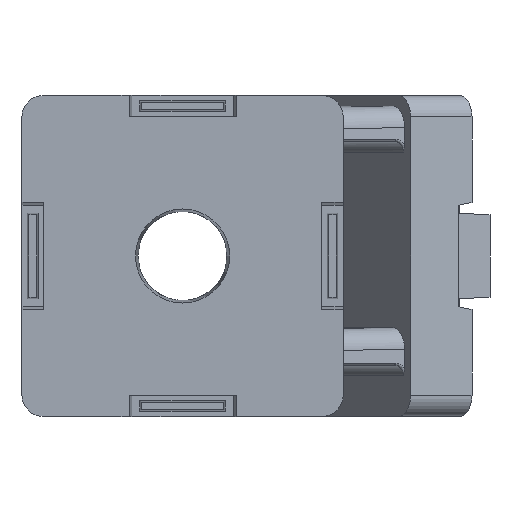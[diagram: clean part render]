
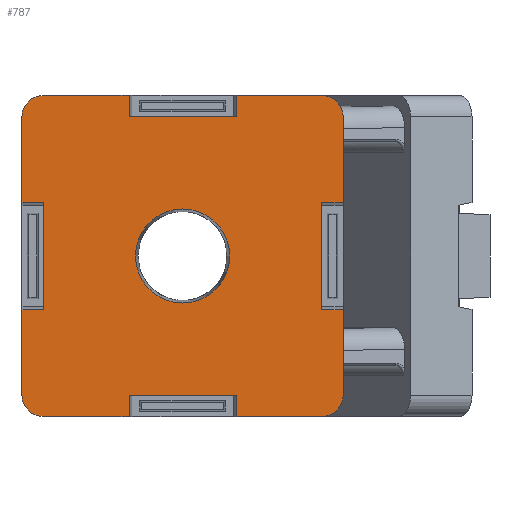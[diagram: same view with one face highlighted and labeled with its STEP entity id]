
A CAD part, front view. The second image highlights one B-rep face of the part: STEP entity #787.
In plain terms, the highlighted planar face has unit normal (0, -1, 0).
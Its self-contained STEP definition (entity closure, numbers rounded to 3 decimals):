
#787=ADVANCED_FACE('NONE',(#1642,#1643),#1644,.T.);
#1642=FACE_OUTER_BOUND('',#2995,.T.);
#1643=FACE_BOUND('',#2996,.T.);
#1644=PLANE('',#2997);
#2995=EDGE_LOOP('',(#5138,#5139,#5140,#5141,#5142,#5143,#5144,#5145,#5146,#5147,#5148,#5149,#5150,#5151,#5152,#5153,#5154,#5155,#5156,#5157,#5158,#5159,#5160,#5161));
#2996=EDGE_LOOP('',(#5162,#5163));
#2997=AXIS2_PLACEMENT_3D('',#5164,#5165,#5166);
#5138=ORIENTED_EDGE('',*,*,#6062,.F.);
#5139=ORIENTED_EDGE('',*,*,#6404,.F.);
#5140=ORIENTED_EDGE('',*,*,#6050,.F.);
#5141=ORIENTED_EDGE('',*,*,#6773,.F.);
#5142=ORIENTED_EDGE('',*,*,#6774,.T.);
#5143=ORIENTED_EDGE('',*,*,#6775,.F.);
#5144=ORIENTED_EDGE('',*,*,#6684,.F.);
#5145=ORIENTED_EDGE('',*,*,#6776,.F.);
#5146=ORIENTED_EDGE('',*,*,#6500,.F.);
#5147=ORIENTED_EDGE('',*,*,#6777,.F.);
#5148=ORIENTED_EDGE('',*,*,#6276,.T.);
#5149=ORIENTED_EDGE('',*,*,#6310,.F.);
#5150=ORIENTED_EDGE('',*,*,#6778,.F.);
#5151=ORIENTED_EDGE('',*,*,#6316,.F.);
#5152=ORIENTED_EDGE('',*,*,#6779,.F.);
#5153=ORIENTED_EDGE('',*,*,#6312,.F.);
#5154=ORIENTED_EDGE('',*,*,#6485,.T.);
#5155=ORIENTED_EDGE('',*,*,#6780,.F.);
#5156=ORIENTED_EDGE('',*,*,#6781,.F.);
#5157=ORIENTED_EDGE('',*,*,#5974,.F.);
#5158=ORIENTED_EDGE('',*,*,#6300,.F.);
#5159=ORIENTED_EDGE('',*,*,#6782,.F.);
#5160=ORIENTED_EDGE('',*,*,#6767,.T.);
#5161=ORIENTED_EDGE('',*,*,#6783,.F.);
#5162=ORIENTED_EDGE('',*,*,#6784,.T.);
#5163=ORIENTED_EDGE('',*,*,#6636,.T.);
#5164=CARTESIAN_POINT('',(-15.0,-22.5,-15.0));
#5165=DIRECTION('',(0.,-1.0,0.));
#5166=DIRECTION('',(0.,0.,1.0));
#5974=EDGE_CURVE('NONE',#6966,#6967,#6968,.T.);
#6050=EDGE_CURVE('NONE',#7102,#7103,#7104,.T.);
#6062=EDGE_CURVE('NONE',#7124,#7125,#7126,.T.);
#6276=EDGE_CURVE('NONE',#7483,#7481,#7484,.T.);
#6300=EDGE_CURVE('NONE',#7514,#6966,#7515,.T.);
#6310=EDGE_CURVE('NONE',#7529,#7481,#7531,.T.);
#6312=EDGE_CURVE('NONE',#7532,#7534,#7535,.T.);
#6316=EDGE_CURVE('NONE',#7539,#7540,#7541,.T.);
#6404=EDGE_CURVE('NONE',#7103,#7124,#7680,.T.);
#6485=EDGE_CURVE('NONE',#7532,#7798,#7800,.T.);
#6500=EDGE_CURVE('NONE',#7820,#7821,#7822,.T.);
#6636=EDGE_CURVE('NONE',#8000,#8002,#8004,.T.);
#6684=EDGE_CURVE('NONE',#8062,#8063,#8064,.T.);
#6767=EDGE_CURVE('NONE',#8164,#8162,#8165,.T.);
#6773=EDGE_CURVE('NONE',#8171,#7102,#8172,.T.);
#6774=EDGE_CURVE('NONE',#8171,#8173,#8174,.T.);
#6775=EDGE_CURVE('NONE',#8063,#8173,#8175,.T.);
#6776=EDGE_CURVE('NONE',#7821,#8062,#8176,.T.);
#6777=EDGE_CURVE('NONE',#7483,#7820,#8177,.T.);
#6778=EDGE_CURVE('NONE',#7540,#7529,#8178,.T.);
#6779=EDGE_CURVE('NONE',#7534,#7539,#8179,.T.);
#6780=EDGE_CURVE('NONE',#8180,#7798,#8181,.T.);
#6781=EDGE_CURVE('NONE',#6967,#8180,#8182,.T.);
#6782=EDGE_CURVE('NONE',#8164,#7514,#8183,.T.);
#6783=EDGE_CURVE('NONE',#7125,#8162,#8184,.T.);
#6784=EDGE_CURVE('NONE',#8002,#8000,#8185,.T.);
#6966=VERTEX_POINT('NONE',#8386);
#6967=VERTEX_POINT('NONE',#8387);
#6968=LINE('',#8388,#8389);
#7102=VERTEX_POINT('NONE',#8577);
#7103=VERTEX_POINT('NONE',#8578);
#7104=LINE('',#8579,#8580);
#7124=VERTEX_POINT('NONE',#8609);
#7125=VERTEX_POINT('NONE',#8610);
#7126=LINE('',#8611,#8612);
#7481=VERTEX_POINT('NONE',#9265);
#7483=VERTEX_POINT('NONE',#9268);
#7484=CIRCLE('',#9269,2.0);
#7514=VERTEX_POINT('NONE',#9320);
#7515=LINE('',#9321,#9322);
#7529=VERTEX_POINT('NONE',#9342);
#7531=LINE('',#9345,#9346);
#7532=VERTEX_POINT('NONE',#9347);
#7534=VERTEX_POINT('NONE',#9350);
#7535=LINE('',#9351,#9352);
#7539=VERTEX_POINT('NONE',#9357);
#7540=VERTEX_POINT('NONE',#9358);
#7541=LINE('',#9359,#9360);
#7680=LINE('',#9587,#9588);
#7798=VERTEX_POINT('NONE',#9810);
#7800=CIRCLE('',#9813,2.0);
#7820=VERTEX_POINT('NONE',#9840);
#7821=VERTEX_POINT('NONE',#9841);
#7822=LINE('',#9842,#9843);
#8000=VERTEX_POINT('NONE',#10122);
#8002=VERTEX_POINT('NONE',#10125);
#8004=CIRCLE('',#10128,4.394);
#8062=VERTEX_POINT('NONE',#10227);
#8063=VERTEX_POINT('NONE',#10228);
#8064=LINE('',#10229,#10230);
#8162=VERTEX_POINT('NONE',#10379);
#8164=VERTEX_POINT('NONE',#10382);
#8165=CIRCLE('',#10383,2.0);
#8171=VERTEX_POINT('NONE',#10392);
#8172=LINE('',#10393,#10394);
#8173=VERTEX_POINT('NONE',#10395);
#8174=CIRCLE('',#10396,2.0);
#8175=LINE('',#10397,#10398);
#8176=LINE('',#10399,#10400);
#8177=LINE('',#10401,#10402);
#8178=LINE('',#10403,#10404);
#8179=LINE('',#10405,#10406);
#8180=VERTEX_POINT('NONE',#10407);
#8181=LINE('',#10408,#10409);
#8182=LINE('',#10410,#10411);
#8183=LINE('',#10412,#10413);
#8184=LINE('',#10414,#10415);
#8185=CIRCLE('',#10416,4.394);
#8386=CARTESIAN_POINT('',(-13.0,-22.5,-5.0));
#8387=CARTESIAN_POINT('',(-13.0,-22.5,5.0));
#8388=CARTESIAN_POINT('',(-13.0,-22.5,5.0));
#8389=VECTOR('',#10721,1000.0);
#8577=CARTESIAN_POINT('',(5.0,-22.5,-15.0));
#8578=CARTESIAN_POINT('',(5.0,-22.5,-13.0));
#8579=CARTESIAN_POINT('',(5.0,-22.5,-15.0));
#8580=VECTOR('',#10814,1000.0);
#8609=CARTESIAN_POINT('',(-5.0,-22.5,-13.0));
#8610=CARTESIAN_POINT('',(-5.0,-22.5,-15.0));
#8611=CARTESIAN_POINT('',(-5.0,-22.5,-15.0));
#8612=VECTOR('',#10824,1000.0);
#9265=CARTESIAN_POINT('',(13.0,-22.5,15.0));
#9268=CARTESIAN_POINT('',(15.0,-22.5,13.0));
#9269=AXIS2_PLACEMENT_3D('',#11094,#11095,#11096);
#9320=CARTESIAN_POINT('',(-15.0,-22.5,-5.0));
#9321=CARTESIAN_POINT('',(-15.0,-22.5,-5.0));
#9322=VECTOR('',#11124,1000.0);
#9342=CARTESIAN_POINT('',(5.0,-22.5,15.0));
#9345=CARTESIAN_POINT('',(-15.0,-22.5,15.0));
#9346=VECTOR('',#11132,1000.0);
#9347=CARTESIAN_POINT('',(-13.0,-22.5,15.0));
#9350=CARTESIAN_POINT('',(-5.0,-22.5,15.0));
#9351=CARTESIAN_POINT('',(-15.0,-22.5,15.0));
#9352=VECTOR('',#11134,1000.0);
#9357=CARTESIAN_POINT('',(-5.0,-22.5,13.0));
#9358=CARTESIAN_POINT('',(5.0,-22.5,13.0));
#9359=CARTESIAN_POINT('',(5.0,-22.5,13.0));
#9360=VECTOR('',#11136,1000.0);
#9587=CARTESIAN_POINT('',(5.0,-22.5,-13.0));
#9588=VECTOR('',#11250,1000.0);
#9810=CARTESIAN_POINT('',(-15.0,-22.5,13.0));
#9813=AXIS2_PLACEMENT_3D('',#11337,#11338,#11339);
#9840=CARTESIAN_POINT('',(15.0,-22.5,5.0));
#9841=CARTESIAN_POINT('',(13.0,-22.5,5.0));
#9842=CARTESIAN_POINT('',(15.0,-22.5,5.0));
#9843=VECTOR('',#11356,1000.0);
#10122=CARTESIAN_POINT('',(4.394,-22.5,0.));
#10125=CARTESIAN_POINT('',(-4.394,-22.5,0.));
#10128=AXIS2_PLACEMENT_3D('',#11521,#11522,#11523);
#10227=CARTESIAN_POINT('',(13.0,-22.5,-5.0));
#10228=CARTESIAN_POINT('',(15.0,-22.5,-5.0));
#10229=CARTESIAN_POINT('',(15.0,-22.5,-5.0));
#10230=VECTOR('',#11578,1000.0);
#10379=CARTESIAN_POINT('',(-13.0,-22.5,-15.0));
#10382=CARTESIAN_POINT('',(-15.0,-22.5,-13.0));
#10383=AXIS2_PLACEMENT_3D('',#11662,#11663,#11664);
#10392=CARTESIAN_POINT('',(13.0,-22.5,-15.0));
#10393=CARTESIAN_POINT('',(-15.0,-22.5,-15.0));
#10394=VECTOR('',#11668,1000.0);
#10395=CARTESIAN_POINT('',(15.0,-22.5,-13.0));
#10396=AXIS2_PLACEMENT_3D('',#11669,#11670,#11671);
#10397=CARTESIAN_POINT('',(15.0,-22.5,15.0));
#10398=VECTOR('',#11672,1000.0);
#10399=CARTESIAN_POINT('',(13.0,-22.5,5.0));
#10400=VECTOR('',#11673,1000.0);
#10401=CARTESIAN_POINT('',(15.0,-22.5,15.0));
#10402=VECTOR('',#11674,1000.0);
#10403=CARTESIAN_POINT('',(5.0,-22.5,15.0));
#10404=VECTOR('',#11675,1000.0);
#10405=CARTESIAN_POINT('',(-5.0,-22.5,15.0));
#10406=VECTOR('',#11676,1000.0);
#10407=CARTESIAN_POINT('',(-15.0,-22.5,5.0));
#10408=CARTESIAN_POINT('',(-15.0,-22.5,15.0));
#10409=VECTOR('',#11677,1000.0);
#10410=CARTESIAN_POINT('',(-15.0,-22.5,5.0));
#10411=VECTOR('',#11678,1000.0);
#10412=CARTESIAN_POINT('',(-15.0,-22.5,15.0));
#10413=VECTOR('',#11679,1000.0);
#10414=CARTESIAN_POINT('',(-15.0,-22.5,-15.0));
#10415=VECTOR('',#11680,1000.0);
#10416=AXIS2_PLACEMENT_3D('',#11681,#11682,#11683);
#10721=DIRECTION('',(0.,0.,1.0));
#10814=DIRECTION('',(0.,0.,1.0));
#10824=DIRECTION('',(0.,0.,-1.0));
#11094=CARTESIAN_POINT('',(13.0,-22.5,13.0));
#11095=DIRECTION('',(0.,-1.0,0.));
#11096=DIRECTION('',(-1.0,0.,0.));
#11124=DIRECTION('',(1.0,0.,0.));
#11132=DIRECTION('',(1.0,0.,0.));
#11134=DIRECTION('',(1.0,0.,0.));
#11136=DIRECTION('',(1.0,0.,0.));
#11250=DIRECTION('',(-1.0,0.,0.));
#11337=CARTESIAN_POINT('',(-13.0,-22.5,13.0));
#11338=DIRECTION('',(0.,-1.0,0.));
#11339=DIRECTION('',(-1.0,0.,0.));
#11356=DIRECTION('',(-1.0,0.,0.));
#11521=CARTESIAN_POINT('',(0.0,-22.5,0.));
#11522=DIRECTION('',(0.,1.0,0.));
#11523=DIRECTION('',(-1.0,0.,0.));
#11578=DIRECTION('',(1.0,0.,0.));
#11662=CARTESIAN_POINT('',(-13.0,-22.5,-13.0));
#11663=DIRECTION('',(0.,-1.0,0.));
#11664=DIRECTION('',(-1.0,0.,0.));
#11668=DIRECTION('',(-1.0,0.,0.));
#11669=CARTESIAN_POINT('',(13.0,-22.5,-13.0));
#11670=DIRECTION('',(0.,-1.0,0.));
#11671=DIRECTION('',(-1.0,0.,0.));
#11672=DIRECTION('',(0.,0.,-1.0));
#11673=DIRECTION('',(0.,0.,-1.0));
#11674=DIRECTION('',(0.,0.,-1.0));
#11675=DIRECTION('',(0.,0.,1.0));
#11676=DIRECTION('',(0.,0.,-1.0));
#11677=DIRECTION('',(0.,0.,1.0));
#11678=DIRECTION('',(-1.0,0.,0.));
#11679=DIRECTION('',(0.,0.,1.0));
#11680=DIRECTION('',(-1.0,0.,0.));
#11681=CARTESIAN_POINT('',(0.0,-22.5,0.));
#11682=DIRECTION('',(0.,1.0,0.));
#11683=DIRECTION('',(-1.0,0.,0.));
